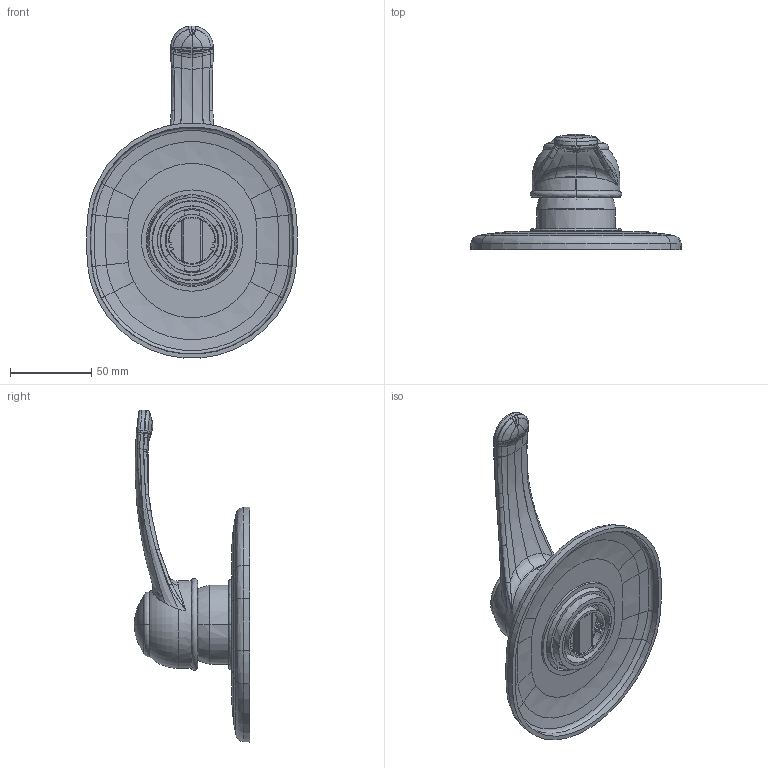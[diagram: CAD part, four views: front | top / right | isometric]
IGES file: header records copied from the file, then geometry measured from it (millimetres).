
Start section:  PTC IGES file: 29016.igs
Global section: file name: 29016.igs; native system: Creo Parametric by PTC Inc.; preprocessor: 2022014; author: carloff; organization: Unknown; date: 20260515.152548; units: millimetre
Bounding box: 129.8 x 71.11 x 204.35 mm (x, y, z)
Surface area: 98848 mm2 (no closed solid volume)
Topology: 0 solids, 0 shells, 1629 faces, 8692 edges, 8684 vertices
Faces by surface type: revolution 841, bspline 788
